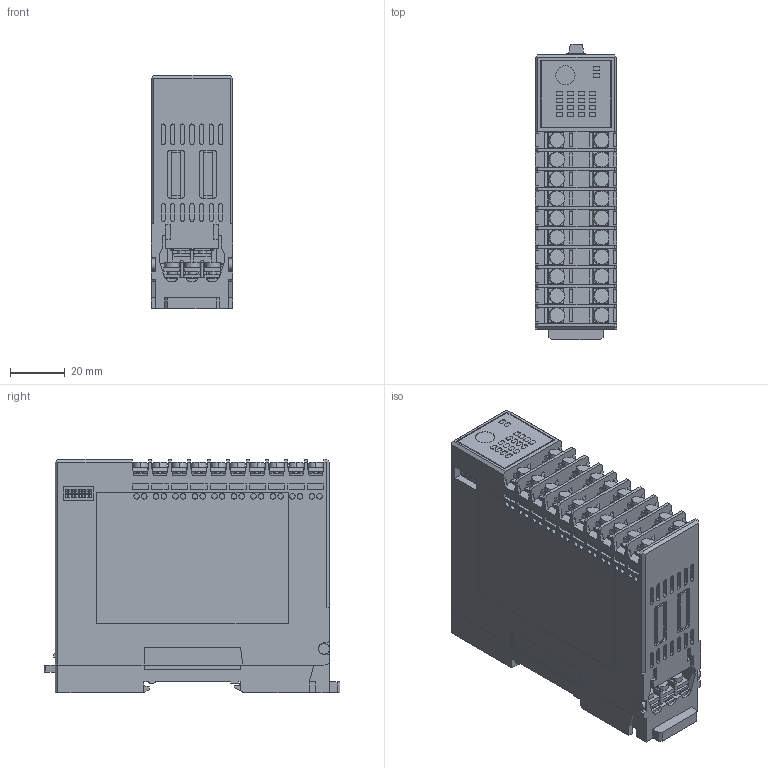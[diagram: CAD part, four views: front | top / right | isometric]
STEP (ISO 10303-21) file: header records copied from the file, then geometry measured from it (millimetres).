
FILE_DESCRIPTION (( 'STEP AP203' ), '1' );
FILE_NAME ('AS_QPM1-PI16仩CT丒PT_260616.STEP', '2026-06-16T06:50:51', ( '' ), ( '' ), 'SwSTEP 2.0', 'SolidWorks 2025', '' );
FILE_SCHEMA (( 'CONFIG_CONTROL_DESIGN' ));
Length unit declared in the file: millimetre
Products named in the file (1): AS_QPM1-PI16□CT・PT_260616
Bounding box: 29.8 x 107.8 x 85.1 mm (x, y, z)
Volume: 225918.2 mm3; surface area: 47112.4 mm2
Topology: 22 solids, 22 shells, 1968 faces, 5013 edges, 3316 vertices
Faces by surface type: plane 1519, cylinder 445, torus 4
Entity records: 58890 total; most frequent: CARTESIAN_POINT 10394, ORIENTED_EDGE 10026, DIRECTION 9757, EDGE_CURVE 5013, VECTOR 4143, LINE 4143, VERTEX_POINT 3316, AXIS2_PLACEMENT_3D 2807
